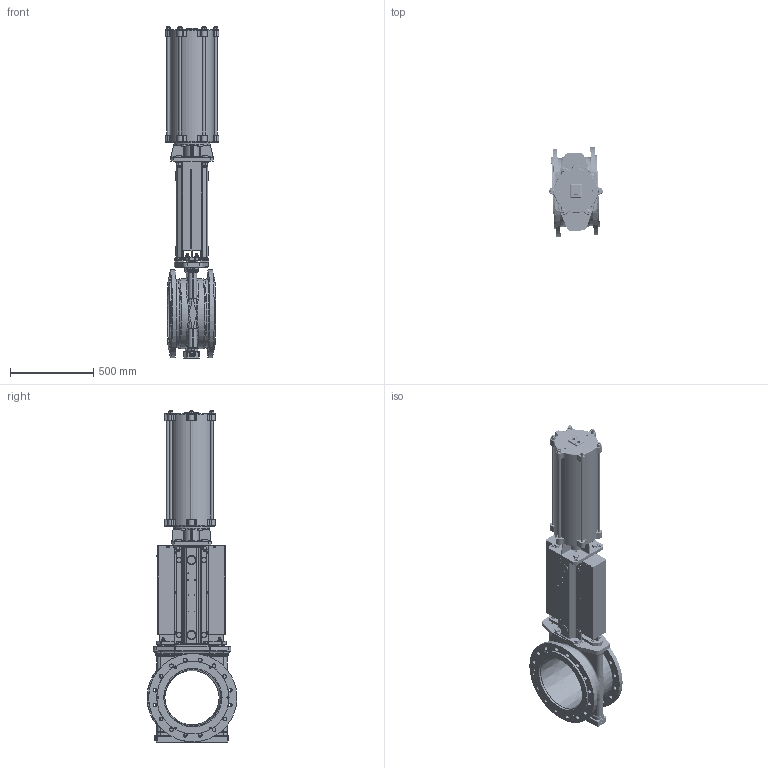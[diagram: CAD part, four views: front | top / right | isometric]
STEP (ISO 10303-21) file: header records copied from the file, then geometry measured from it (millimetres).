
FILE_DESCRIPTION(/* description */ (''),/* implementation_level */ '2;1');
FILE_NAME(/* name */ 'F:\3D-block färdiga för export\SLV-SLF\DN 350\SFL-DN350-PN10-SC250-LDR.stp',/* time_stamp */ '2021-06-17T09:47:35+02:00',/* author */ ('MATZET'),/* organization */ (''),/* preprocessor_version */ 'ST-DEVELOPER v18',/* originating_system */ 'Autodesk Inventor 2020',/* authorisation */ '');
FILE_SCHEMA (('AUTOMOTIVE_DESIGN { 1 0 10303 214 3 1 1 }'));
Length unit declared in the file: millimetre
Products named in the file (1): SFL-DN350-PN10-SC250-LDR
Bounding box: 322 x 539.51 x 1991.5 mm (x, y, z)
Volume: 39948178.5 mm3; surface area: 6737484.8 mm2
Topology: 1 solids, 1 shells, 3317 faces, 8422 edges, 5292 vertices
Faces by surface type: plane 1287, cylinder 950, cone 360, bspline 298, torus 294, sphere 128
Full cylindrical faces by diameter (mm): 2.459 x8, 3 x12, 3.5 x8, 4 x24, 4.917 x7, 5 x8, 6 x13, 6.647 x4, 7 x12, 7.5 x16, 8.376 x14, 8.88 x1, 9.5 x2, 10 x12, 10.106 x10, 11 x12, 12 x12, 12.5 x6, 13 x8, 14 x6, 15 x9, 16 x12, 17 x6, 17.5 x6, 18 x1, 18.2 x4, 18.5 x2, 18.631 x2, 19 x8, 20 x10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
Entity records: 116261 total; most frequent: CARTESIAN_POINT 34232, DIRECTION 17232, ORIENTED_EDGE 16646, EDGE_CURVE 8323, AXIS2_PLACEMENT_3D 7055, VERTEX_POINT 5290, CIRCLE 3904, EDGE_LOOP 3861
